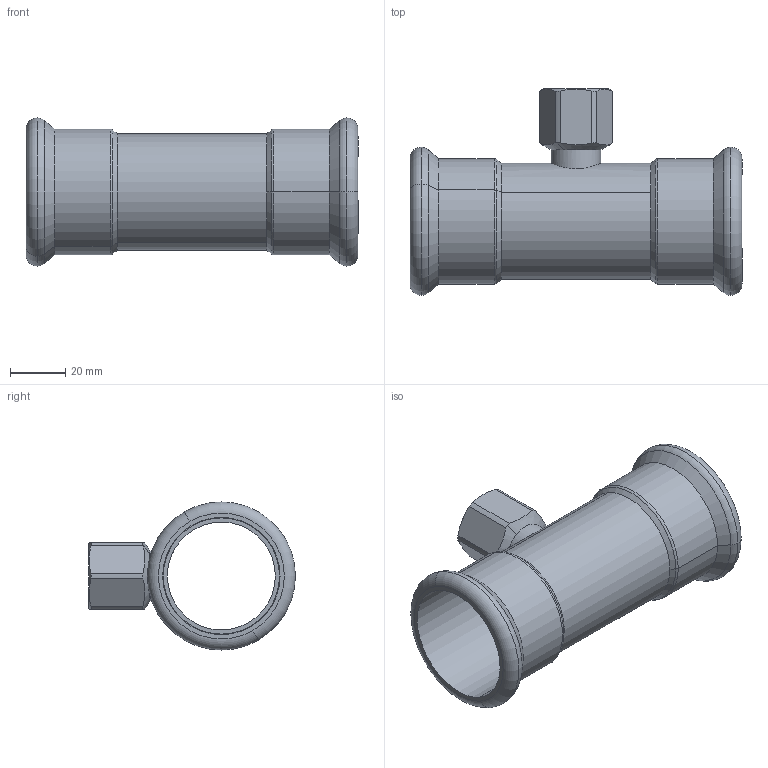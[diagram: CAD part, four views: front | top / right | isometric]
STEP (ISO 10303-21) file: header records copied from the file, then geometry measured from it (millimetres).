
FILE_DESCRIPTION(('CoCreate Modeling STEP Export'),'2;1');
FILE_NAME('C1418 42xRp1-2x42.stp','2014-11-12T15:04:20',(''),(''),'CoCreate Modeling STEP processor for AP214 (Solid Model)','CoCreate Modeling 17.00A 17-Jun-2010 (C) Parametric Technology GmbH','');
FILE_SCHEMA(('AUTOMOTIVE_DESIGN { 1 0 10303 214 1 1 1 1 }'));
Length unit declared in the file: millimetre
Products named in the file (2): C1418_42xRp1-2x42
Assembly tree (1 placements, depth 2):
  C1418_42xRp1-2x42
    C1418_42xRp1-2x42
Bounding box: 120 x 74.78 x 53.55 mm (x, y, z)
Volume: 37671.7 mm3; surface area: 38374.4 mm2
Topology: 1 solids, 1 shells, 66 faces, 158 edges, 99 vertices
Faces by surface type: cylinder 28, plane 14, torus 12, cone 12
Entity records: 3451 total; most frequent: CARTESIAN_POINT 2055, ORIENTED_EDGE 316, DIRECTION 240, EDGE_CURVE 158, VERTEX_POINT 99, AXIS2_PLACEMENT_3D 97, EDGE_LOOP 75, FACE_OUTER_BOUND 66
